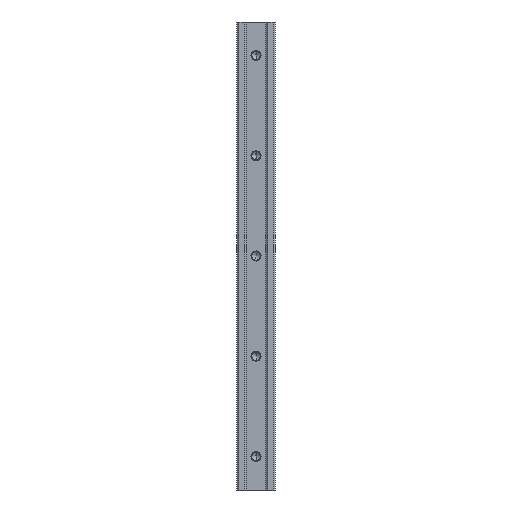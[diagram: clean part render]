
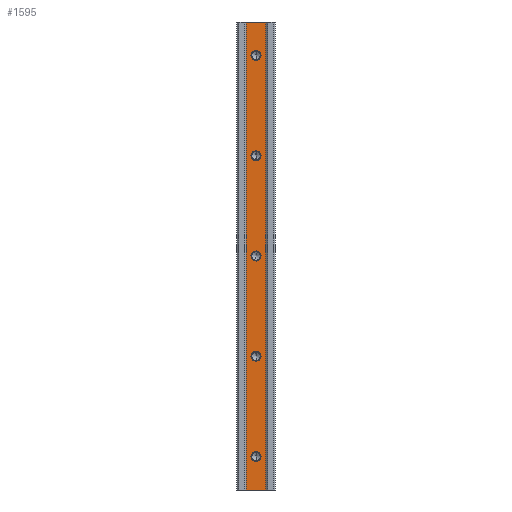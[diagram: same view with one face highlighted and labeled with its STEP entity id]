
A CAD part, front view. The second image highlights one B-rep face of the part: STEP entity #1595.
In plain terms, the highlighted planar face has unit normal (0, -1, 0).
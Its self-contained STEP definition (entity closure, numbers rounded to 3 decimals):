
#26 = CARTESIAN_POINT ( 'NONE',  ( 5.75, 1.25, -140. ) ) ;
#52 = CARTESIAN_POINT ( 'NONE',  ( 5.75, 1.25, 140. ) ) ;
#56 = CIRCLE ( 'NONE', #454, 3. ) ;
#64 = ORIENTED_EDGE ( 'NONE', *, *, #891, .F. ) ;
#106 = CARTESIAN_POINT ( 'NONE',  ( -5.75, 1.25, -140. ) ) ;
#115 = FACE_OUTER_BOUND ( 'NONE', #1555, .T. ) ;
#152 = CARTESIAN_POINT ( 'NONE',  ( 0., 1.25, 120. ) ) ;
#172 = DIRECTION ( 'NONE',  ( 0., 0., 1. ) ) ;
#177 = AXIS2_PLACEMENT_3D ( 'NONE', #298, #1566, #623 ) ;
#192 = EDGE_CURVE ( 'NONE', #311, #1103, #898, .T. ) ;
#195 = ORIENTED_EDGE ( 'NONE', *, *, #795, .F. ) ;
#218 = DIRECTION ( 'NONE',  ( 0., 0., -1. ) ) ;
#225 = DIRECTION ( 'NONE',  ( 0., -1., 0. ) ) ;
#260 = AXIS2_PLACEMENT_3D ( 'NONE', #1734, #1226, #1237 ) ;
#289 = CARTESIAN_POINT ( 'NONE',  ( 0., 1.25, -117. ) ) ;
#298 = CARTESIAN_POINT ( 'NONE',  ( 0., 1.25, 0. ) ) ;
#302 = LINE ( 'NONE', #106, #1023 ) ;
#311 = VERTEX_POINT ( 'NONE', #465 ) ;
#321 = EDGE_LOOP ( 'NONE', ( #1317, #383 ) ) ;
#342 = EDGE_LOOP ( 'NONE', ( #924, #64 ) ) ;
#343 = EDGE_CURVE ( 'NONE', #723, #1001, #1048, .T. ) ;
#346 = AXIS2_PLACEMENT_3D ( 'NONE', #1432, #719, #1280 ) ;
#353 = VERTEX_POINT ( 'NONE', #792 ) ;
#357 = DIRECTION ( 'NONE',  ( 0., 0., -1. ) ) ;
#371 = VERTEX_POINT ( 'NONE', #928 ) ;
#383 = ORIENTED_EDGE ( 'NONE', *, *, #698, .F. ) ;
#386 = DIRECTION ( 'NONE',  ( -1., 0., 0. ) ) ;
#423 = EDGE_LOOP ( 'NONE', ( #668, #1715 ) ) ;
#452 = EDGE_LOOP ( 'NONE', ( #916, #568 ) ) ;
#454 = AXIS2_PLACEMENT_3D ( 'NONE', #152, #1021, #1719 ) ;
#465 = CARTESIAN_POINT ( 'NONE',  ( 0., 1.25, -3. ) ) ;
#502 = CARTESIAN_POINT ( 'NONE',  ( 0., 1.25, -57. ) ) ;
#504 = VERTEX_POINT ( 'NONE', #825 ) ;
#509 = EDGE_CURVE ( 'NONE', #886, #371, #302, .T. ) ;
#512 = FACE_BOUND ( 'NONE', #423, .T. ) ;
#514 = CARTESIAN_POINT ( 'NONE',  ( 5.75, 1.25, -140. ) ) ;
#516 = DIRECTION ( 'NONE',  ( 0., 0., 1. ) ) ;
#552 = DIRECTION ( 'NONE',  ( -1., 0., 0. ) ) ;
#553 = VERTEX_POINT ( 'NONE', #1428 ) ;
#554 = FACE_BOUND ( 'NONE', #452, .T. ) ;
#556 = AXIS2_PLACEMENT_3D ( 'NONE', #1295, #1455, #863 ) ;
#557 = DIRECTION ( 'NONE',  ( 0., 1., 0. ) ) ;
#568 = ORIENTED_EDGE ( 'NONE', *, *, #1584, .F. ) ;
#593 = DIRECTION ( 'NONE',  ( 0., 0., -1. ) ) ;
#619 = DIRECTION ( 'NONE',  ( 0., 0., 1. ) ) ;
#623 = DIRECTION ( 'NONE',  ( 0., 0., -1. ) ) ;
#651 = DIRECTION ( 'NONE',  ( 0., -1., 0. ) ) ;
#658 = CARTESIAN_POINT ( 'NONE',  ( -5.75, 1.25, 140. ) ) ;
#662 = LINE ( 'NONE', #658, #756 ) ;
#668 = ORIENTED_EDGE ( 'NONE', *, *, #1649, .F. ) ;
#675 = EDGE_CURVE ( 'NONE', #1705, #847, #56, .T. ) ;
#677 = AXIS2_PLACEMENT_3D ( 'NONE', #1078, #557, #516 ) ;
#698 = EDGE_CURVE ( 'NONE', #1001, #723, #1339, .T. ) ;
#701 = DIRECTION ( 'NONE',  ( 0., -1., 0. ) ) ;
#705 = AXIS2_PLACEMENT_3D ( 'NONE', #794, #701, #218 ) ;
#712 = CARTESIAN_POINT ( 'NONE',  ( 0., 1.25, 123. ) ) ;
#719 = DIRECTION ( 'NONE',  ( 0., -1., 0. ) ) ;
#723 = VERTEX_POINT ( 'NONE', #1008 ) ;
#742 = VERTEX_POINT ( 'NONE', #289 ) ;
#753 = FACE_BOUND ( 'NONE', #321, .T. ) ;
#756 = VECTOR ( 'NONE', #552, 1000. ) ;
#760 = EDGE_CURVE ( 'NONE', #886, #1489, #1669, .T. ) ;
#774 = CARTESIAN_POINT ( 'NONE',  ( 0., 1.25, 60. ) ) ;
#784 = ORIENTED_EDGE ( 'NONE', *, *, #1606, .T. ) ;
#792 = CARTESIAN_POINT ( 'NONE',  ( 0., 1.25, -123. ) ) ;
#794 = CARTESIAN_POINT ( 'NONE',  ( 0., 1.25, -120. ) ) ;
#795 = EDGE_CURVE ( 'NONE', #371, #504, #1803, .T. ) ;
#825 = CARTESIAN_POINT ( 'NONE',  ( -5.75, 1.25, 140. ) ) ;
#847 = VERTEX_POINT ( 'NONE', #1494 ) ;
#862 = EDGE_CURVE ( 'NONE', #553, #1498, #1073, .T. ) ;
#863 = DIRECTION ( 'NONE',  ( 0., 0., -1. ) ) ;
#874 = DIRECTION ( 'NONE',  ( 0., -1., 0. ) ) ;
#876 = CIRCLE ( 'NONE', #1267, 3. ) ;
#886 = VERTEX_POINT ( 'NONE', #514 ) ;
#890 = DIRECTION ( 'NONE',  ( 0., 0., -1. ) ) ;
#891 = EDGE_CURVE ( 'NONE', #1498, #553, #876, .T. ) ;
#898 = CIRCLE ( 'NONE', #177, 3. ) ;
#908 = AXIS2_PLACEMENT_3D ( 'NONE', #1577, #874, #890 ) ;
#916 = ORIENTED_EDGE ( 'NONE', *, *, #1355, .F. ) ;
#924 = ORIENTED_EDGE ( 'NONE', *, *, #862, .F. ) ;
#928 = CARTESIAN_POINT ( 'NONE',  ( -5.75, 1.25, -140. ) ) ;
#976 = CARTESIAN_POINT ( 'NONE',  ( 0., 1.25, 3. ) ) ;
#1001 = VERTEX_POINT ( 'NONE', #1090 ) ;
#1008 = CARTESIAN_POINT ( 'NONE',  ( 0., 1.25, 57. ) ) ;
#1021 = DIRECTION ( 'NONE',  ( 0., -1., 0. ) ) ;
#1023 = VECTOR ( 'NONE', #386, 1000. ) ;
#1037 = CIRCLE ( 'NONE', #346, 3. ) ;
#1046 = ORIENTED_EDGE ( 'NONE', *, *, #760, .T. ) ;
#1048 = CIRCLE ( 'NONE', #1750, 3. ) ;
#1063 = CARTESIAN_POINT ( 'NONE',  ( -5.75, 1.25, -140. ) ) ;
#1073 = CIRCLE ( 'NONE', #260, 3. ) ;
#1078 = CARTESIAN_POINT ( 'NONE',  ( -5.75, 1.25, -140. ) ) ;
#1081 = CIRCLE ( 'NONE', #705, 3. ) ;
#1083 = PLANE ( 'NONE',  #677 ) ;
#1090 = CARTESIAN_POINT ( 'NONE',  ( 0., 1.25, 63. ) ) ;
#1103 = VERTEX_POINT ( 'NONE', #976 ) ;
#1175 = ORIENTED_EDGE ( 'NONE', *, *, #1677, .F. ) ;
#1176 = ORIENTED_EDGE ( 'NONE', *, *, #192, .F. ) ;
#1226 = DIRECTION ( 'NONE',  ( 0., -1., 0. ) ) ;
#1237 = DIRECTION ( 'NONE',  ( 0., 0., -1. ) ) ;
#1239 = CIRCLE ( 'NONE', #908, 3. ) ;
#1246 = AXIS2_PLACEMENT_3D ( 'NONE', #1567, #1450, #593 ) ;
#1253 = VECTOR ( 'NONE', #619, 1000. ) ;
#1267 = AXIS2_PLACEMENT_3D ( 'NONE', #1380, #225, #357 ) ;
#1280 = DIRECTION ( 'NONE',  ( 0., 0., -1. ) ) ;
#1285 = FACE_BOUND ( 'NONE', #342, .T. ) ;
#1295 = CARTESIAN_POINT ( 'NONE',  ( 0., 1.25, 60. ) ) ;
#1317 = ORIENTED_EDGE ( 'NONE', *, *, #343, .F. ) ;
#1339 = CIRCLE ( 'NONE', #556, 3. ) ;
#1355 = EDGE_CURVE ( 'NONE', #353, #742, #1239, .T. ) ;
#1363 = EDGE_LOOP ( 'NONE', ( #1176, #1175 ) ) ;
#1380 = CARTESIAN_POINT ( 'NONE',  ( 0., 1.25, -60. ) ) ;
#1428 = CARTESIAN_POINT ( 'NONE',  ( 0., 1.25, -63. ) ) ;
#1430 = CIRCLE ( 'NONE', #1246, 3. ) ;
#1432 = CARTESIAN_POINT ( 'NONE',  ( 0., 1.25, 0. ) ) ;
#1450 = DIRECTION ( 'NONE',  ( 0., -1., 0. ) ) ;
#1455 = DIRECTION ( 'NONE',  ( 0., -1., 0. ) ) ;
#1489 = VERTEX_POINT ( 'NONE', #52 ) ;
#1494 = CARTESIAN_POINT ( 'NONE',  ( 0., 1.25, 117. ) ) ;
#1498 = VERTEX_POINT ( 'NONE', #502 ) ;
#1555 = EDGE_LOOP ( 'NONE', ( #784, #195, #1761, #1046 ) ) ;
#1566 = DIRECTION ( 'NONE',  ( 0., -1., 0. ) ) ;
#1567 = CARTESIAN_POINT ( 'NONE',  ( 0., 1.25, 120. ) ) ;
#1577 = CARTESIAN_POINT ( 'NONE',  ( 0., 1.25, -120. ) ) ;
#1583 = VECTOR ( 'NONE', #172, 1000. ) ;
#1584 = EDGE_CURVE ( 'NONE', #742, #353, #1081, .T. ) ;
#1595 = ADVANCED_FACE ( 'NONE', ( #753, #512, #115, #1771, #1285, #554 ), #1083, .F. ) ;
#1606 = EDGE_CURVE ( 'NONE', #1489, #504, #662, .T. ) ;
#1649 = EDGE_CURVE ( 'NONE', #847, #1705, #1430, .T. ) ;
#1669 = LINE ( 'NONE', #26, #1583 ) ;
#1677 = EDGE_CURVE ( 'NONE', #1103, #311, #1037, .T. ) ;
#1705 = VERTEX_POINT ( 'NONE', #712 ) ;
#1715 = ORIENTED_EDGE ( 'NONE', *, *, #675, .F. ) ;
#1719 = DIRECTION ( 'NONE',  ( 0., 0., -1. ) ) ;
#1734 = CARTESIAN_POINT ( 'NONE',  ( 0., 1.25, -60. ) ) ;
#1748 = DIRECTION ( 'NONE',  ( 0., 0., -1. ) ) ;
#1750 = AXIS2_PLACEMENT_3D ( 'NONE', #774, #651, #1748 ) ;
#1761 = ORIENTED_EDGE ( 'NONE', *, *, #509, .F. ) ;
#1771 = FACE_BOUND ( 'NONE', #1363, .T. ) ;
#1803 = LINE ( 'NONE', #1063, #1253 ) ;
